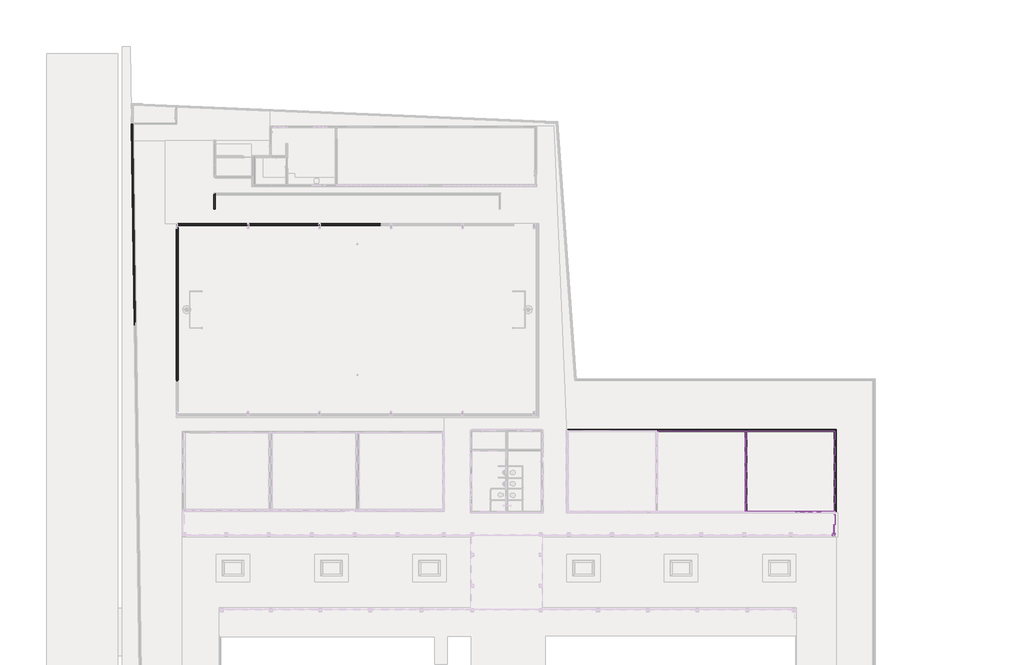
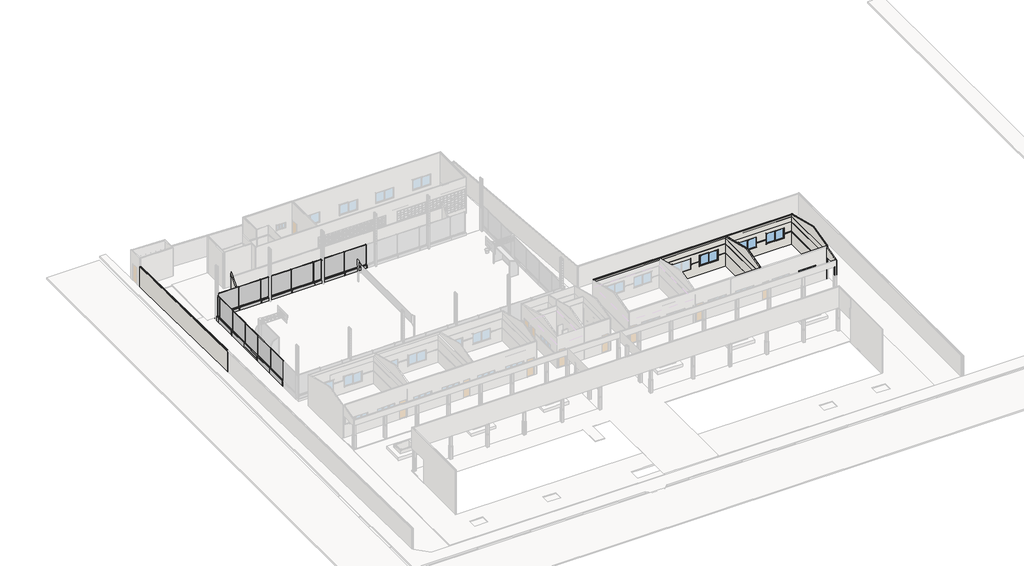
# One storey, part 19 of 28: 36 walls, 14 plates, 4 windows.
"""IFC4 building model written with IfcOpenShell, lengths in millimetres."""

from ifc_helpers import new_model, si_unit, frame, origin, place, context, project, spatial, polyline, outline, extrude, faceted_brep, transform, mapped, element, save
from components import plate_c8864c2c, plate_ba95d4eb, plate_0e4e2798, window_2x1_20x1x10_9e9748dd, window_2x60x220_bcaba8dd

model = new_model("IFC4")

# Units and contexts
model_context = context("Model", 3, world=origin())
ifc_project = project(units=[si_unit("LENGTHUNIT", "METRE", prefix="MILLI")], contexts=[model_context])

# Site, building, storey
site = spatial("IfcSite", under=ifc_project)
building = spatial("IfcBuilding", under=site)
storey = spatial("IfcBuildingStorey", under=building, Name="Térreo", Elevation=0.0)

# Plates
placement = place(None, origin())
plate_shape = plate_c8864c2c(model_context)
element("IfcPlate", 1, ObjectType="FDE_FQ01_FechamentoParaQuadradeEsportes : FQ01_LateraisSapata", at=placement, inside=storey, context=model_context, shape_type="MappedRepresentation", body=[
    mapped(plate_shape, transform((-58665.0, 33318.7010514, -350.0), x_axis=(0.0, 1.0, 0.0), y_axis=(-1.0, 0.0, 0.0), z_axis=(0.0, 0.0, 1.0))),
])
element("IfcPlate", 2, ObjectType="FDE_FQ01_FechamentoParaQuadradeEsportes : FQ01_LateraisSapata", at=placement, inside=storey, context=model_context, shape_type="MappedRepresentation", body=[
    mapped(plate_shape, transform((-58665.0, 35818.7010514, -350.0), x_axis=(0.0, 1.0, 0.0), y_axis=(-1.0, 0.0, 0.0), z_axis=(0.0, 0.0, 1.0))),
])
element("IfcPlate", 3, ObjectType="FDE_FQ01_FechamentoParaQuadradeEsportes : FQ01_LateraisSapata", at=placement, inside=storey, context=model_context, shape_type="MappedRepresentation", body=[
    mapped(plate_shape, transform((-58665.0, 38318.7010514, -350.0), x_axis=(0.0, 1.0, 0.0), y_axis=(-1.0, 0.0, 0.0), z_axis=(0.0, 0.0, 1.0))),
])
element("IfcPlate", 4, ObjectType="FDE_FQ01_FechamentoParaQuadradeEsportes : FQ01_LateraisSapata", at=placement, inside=storey, context=model_context, shape_type="MappedRepresentation", body=[
    mapped(plate_shape, transform((-58665.0, 40818.7010514, -350.0), x_axis=(0.0, 1.0, 0.0), y_axis=(-1.0, 0.0, 0.0), z_axis=(0.0, 0.0, 1.0))),
])
element("IfcPlate", 5, ObjectType="FDE_FQ01_FechamentoParaQuadradeEsportes : FQ01_LateraisSapata", at=placement, inside=storey, context=model_context, shape_type="MappedRepresentation", body=[
    mapped(plate_shape, transform((-58665.0, 43318.7010514, -350.0), x_axis=(0.0, 1.0, 0.0), y_axis=(-1.0, 0.0, 0.0), z_axis=(0.0, 0.0, 1.0))),
])
element("IfcPlate", 6, ObjectType="FDE_FQ01_FechamentoParaQuadradeEsportes : FQ01_LateraisSapata", at=placement, inside=storey, context=model_context, shape_type="MappedRepresentation", body=[
    mapped(plate_shape, transform((-57379.9999998, 45265.0, -350.0), x_axis=(1.0, 0.0, 0.0), y_axis=(0.0, 1.0, 0.0), z_axis=(0.0, 0.0, 1.0))),
])
element("IfcPlate", 7, ObjectType="FDE_FQ01_FechamentoParaQuadradeEsportes : FQ01_LateraisSapata", at=placement, inside=storey, context=model_context, shape_type="MappedRepresentation", body=[
    mapped(plate_shape, transform((-54879.9999997, 45265.0, -350.0), x_axis=(1.0, 0.0, 0.0), y_axis=(0.0, 1.0, 0.0), z_axis=(0.0, 0.0, 1.0))),
])
element("IfcPlate", 8, ObjectType="FDE_FQ01_FechamentoParaQuadradeEsportes : FQ01_LateraisSapata", at=placement, inside=storey, context=model_context, shape_type="MappedRepresentation", body=[
    mapped(plate_shape, transform((-51414.9999998, 45265.0, -350.0), x_axis=(1.0, 0.0, 0.0), y_axis=(0.0, 1.0, 0.0), z_axis=(0.0, 0.0, 1.0))),
])
element("IfcPlate", 9, ObjectType="FDE_FQ01_FechamentoParaQuadradeEsportes : FQ01_LateraisSapata", at=placement, inside=storey, context=model_context, shape_type="MappedRepresentation", body=[
    mapped(plate_shape, transform((-48914.9999997, 45265.0, -350.0), x_axis=(1.0, 0.0, 0.0), y_axis=(0.0, 1.0, 0.0), z_axis=(0.0, 0.0, 1.0))),
])
element("IfcPlate", 10, ObjectType="FDE_FQ01_FechamentoParaQuadradeEsportes : FQ01_LateraisSapata", at=placement, inside=storey, context=model_context, shape_type="MappedRepresentation", body=[
    mapped(plate_shape, transform((-45414.9999998, 45265.0, -350.0), x_axis=(1.0, 0.0, 0.0), y_axis=(0.0, 1.0, 0.0), z_axis=(0.0, 0.0, 1.0))),
])
element("IfcPlate", 11, ObjectType="FDE_FQ01_FechamentoParaQuadradeEsportes : FQ01_LateraisSapata", at=placement, inside=storey, context=model_context, shape_type="MappedRepresentation", body=[
    mapped(plate_shape, transform((-42914.9999997, 45265.0, -350.0), x_axis=(1.0, 0.0, 0.0), y_axis=(0.0, 1.0, 0.0), z_axis=(0.0, 0.0, 1.0))),
])
plate_2_shape = plate_ba95d4eb(model_context)
element("IfcPlate", 12, ObjectType="FDE_FQ01_FechamentoParaQuadradeEsportes : FQ01_LateraisSapata", at=placement, inside=storey, context=model_context, shape_type="MappedRepresentation", body=[
    mapped(plate_2_shape, transform((-58665.0, 44759.3505257, -350.0), x_axis=(0.0, 1.0, 0.0), y_axis=(-1.0, 0.0, 0.0), z_axis=(0.0, 0.0, 1.0))),
])
plate_3_shape = plate_0e4e2798(model_context)
element("IfcPlate", 13, ObjectType="FDE_FQ01_FechamentoParaQuadradeEsportes : FQ01_LateraisSapata", at=placement, inside=storey, context=model_context, shape_type="MappedRepresentation", body=[
    mapped(plate_3_shape, transform((-53189.9999998, 45265.0, -350.0), x_axis=(1.0, 0.0, 0.0), y_axis=(0.0, 1.0, 0.0), z_axis=(0.0, 0.0, 1.0))),
])
element("IfcPlate", 14, ObjectType="FDE_FQ01_FechamentoParaQuadradeEsportes : FQ01_LateraisSapata", at=placement, inside=storey, context=model_context, shape_type="MappedRepresentation", body=[
    mapped(plate_3_shape, transform((-47224.9999998, 45265.0, -350.0), x_axis=(1.0, 0.0, 0.0), y_axis=(0.0, 1.0, 0.0), z_axis=(0.0, 0.0, 1.0))),
])

# Walls
element("IfcWall", 15, ObjectType="FDE_S712_AlvenariadeTijoloCerâmico/Baiano_Alvenaria_9cm - Existente", at=placement, inside=storey, context=model_context, shape_type="Brep", body=[
    faceted_brep([(-18335.0, 27930.0, 0.0), (-10920.0, 27930.0, 0.0), (-10830.0, 27930.0, 0.0), (-10830.0, 27930.0, 3500.0), (-10920.0, 27930.0, 3500.0), (-18335.0, 27930.0, 3500.0), (-16955.0, 27930.0, 1235.0), (-16955.0, 27930.0, 2505.0), (-14885.0, 27930.0, 2505.0), (-14885.0, 27930.0, 1235.0), (-13855.0, 27930.0, 1235.0), (-13855.0, 27930.0, 2505.0), (-11785.0, 27930.0, 2505.0), (-11785.0, 27930.0, 1235.0), (-10830.0, 28020.0, 0.0), (-18335.0, 28020.0, 0.0), (-18335.0, 28020.0, 3500.0), (-10830.0, 28020.0, 3500.0), (-16955.0, 28020.0, 2505.0), (-16955.0, 28020.0, 1235.0), (-14885.0, 28020.0, 1235.0), (-14885.0, 28020.0, 2505.0), (-13855.0, 28020.0, 2505.0), (-13855.0, 28020.0, 1235.0), (-11785.0, 28020.0, 1235.0), (-11785.0, 28020.0, 2505.0)], [[[0, 1, 2, 3, 4, 5], [6, 7, 8, 9], [10, 11, 12, 13]], [[14, 15, 16, 17], [18, 19, 20, 21], [22, 23, 24, 25]], [[2, 1, 0, 15, 14]], [[5, 4, 3, 17, 16]], [[0, 5, 16, 15]], [[2, 14, 17, 3]], [[6, 19, 18, 7]], [[7, 18, 21, 8]], [[8, 21, 20, 9]], [[19, 6, 9, 20]], [[10, 23, 22, 11]], [[11, 22, 25, 12]], [[12, 25, 24, 13]], [[23, 10, 13, 24]]]),
])
element("IfcWall", 16, ObjectType="FDE_S712_AlvenariadeTijoloCerâmico/Baiano_Alvenaria_9cm - Existente", at=placement, inside=storey, context=model_context, shape_type="Brep", body=[
    faceted_brep([(-10920.0, 27930.0, 3500.0), (-10920.0, 27930.0, 0.0), (-10920.0, 21150.0, 0.0), (-10920.0, 21060.0, 0.0), (-10920.0, 21060.0, 3500.0), (-10920.0, 21150.0, 3500.0), (-10830.0, 27930.0, 0.0), (-10830.0, 27930.0, 3500.0), (-10830.0, 21150.0, 3500.0), (-10830.0, 21060.0, 3500.0), (-10830.0, 21060.0, 0.0), (-10830.0, 21150.0, 0.0)], [[[0, 1, 2, 3, 4, 5]], [[6, 7, 8, 9, 10, 11]], [[3, 2, 1, 6, 11, 10]], [[0, 5, 4, 9, 8, 7]], [[0, 7, 6, 1]], [[3, 10, 9, 4]]]),
])
element("IfcWall", 17, ObjectType="FDE_S712_AlvenariadeTijoloCerâmico/Baiano_Alvenaria_9cm - Existente", at=placement, inside=storey, context=model_context, shape_type="Brep", body=[
    faceted_brep([(-10830.0, 27930.0, 0.0), (-3420.0, 27930.0, 0.0), (-3330.0, 27930.0, 0.0), (-3330.0, 27930.0, 3500.0), (-3420.0, 27930.0, 3500.0), (-10830.0, 27930.0, 3500.0), (-9455.0, 27930.0, 1235.0), (-9455.0, 27930.0, 2505.0), (-7385.0, 27930.0, 2505.0), (-7385.0, 27930.0, 1235.0), (-6355.0, 27930.0, 1235.0), (-6355.0, 27930.0, 2505.0), (-4285.0, 27930.0, 2505.0), (-4285.0, 27930.0, 1235.0), (-3330.0, 28020.0, 0.0), (-10830.0, 28020.0, 0.0), (-10830.0, 28020.0, 3500.0), (-3330.0, 28020.0, 3500.0), (-9455.0, 28020.0, 2505.0), (-9455.0, 28020.0, 1235.0), (-7385.0, 28020.0, 1235.0), (-7385.0, 28020.0, 2505.0), (-6355.0, 28020.0, 2505.0), (-6355.0, 28020.0, 1235.0), (-4285.0, 28020.0, 1235.0), (-4285.0, 28020.0, 2505.0)], [[[0, 1, 2, 3, 4, 5], [6, 7, 8, 9], [10, 11, 12, 13]], [[14, 15, 16, 17], [18, 19, 20, 21], [22, 23, 24, 25]], [[2, 1, 0, 15, 14]], [[5, 4, 3, 17, 16]], [[3, 2, 14, 17]], [[5, 16, 15, 0]], [[6, 19, 18, 7]], [[7, 18, 21, 8]], [[8, 21, 20, 9]], [[19, 6, 9, 20]], [[10, 23, 22, 11]], [[11, 22, 25, 12]], [[12, 25, 24, 13]], [[23, 10, 13, 24]]]),
])
element("IfcWall", 18, ObjectType="FDE_S712_AlvenariadeTijoloCerâmico/Baiano_Alvenaria_9cm - Existente", at=placement, inside=storey, context=model_context, shape_type="Brep", body=[
    faceted_brep([(-3420.0, 27930.0, 0.0), (-3420.0, 21150.0, 0.0), (-3420.0, 21060.0, 0.0), (-3420.0, 21060.0, 3500.0), (-3420.0, 21150.0, 3500.0), (-3420.0, 27930.0, 3500.0), (-3330.0, 27930.0, 0.0), (-3330.0, 27930.0, 3500.0), (-3330.0, 21060.0, 3500.0), (-3330.0, 21060.0, 0.0)], [[[0, 1, 2, 3, 4, 5]], [[6, 7, 8, 9]], [[2, 1, 0, 6, 9]], [[5, 4, 3, 8, 7]], [[0, 5, 7, 6]], [[2, 9, 8, 3]]]),
])
element("IfcWall", 19, ObjectType="FDE_S712_AlvenariadeTijoloCerâmico/Baiano_Alvenaria_9cm - Existente", at=placement, inside=storey, context=model_context, shape_type="Brep", body=[
    faceted_brep([(-3420.0, 21150.0, 0.0), (-10830.0, 21150.0, 0.0), (-10830.0, 21150.0, 3500.0), (-3420.0, 21150.0, 3500.0), (-10754.0, 21150.0, 2312.0), (-10754.0, 21150.0, 200.0), (-9920.0, 21150.0, 200.0), (-9920.0, 21150.0, 2312.0), (-4585.0, 21150.0, 1665.0), (-4585.0, 21150.0, 2335.0), (-6655.0, 21150.0, 2335.0), (-6655.0, 21150.0, 1665.0), (-7585.0, 21150.0, 1665.0), (-7585.0, 21150.0, 2335.0), (-9655.0, 21150.0, 2335.0), (-9655.0, 21150.0, 1665.0), (-10830.0, 21060.0, 0.0), (-3420.0, 21060.0, 0.0), (-3420.0, 21060.0, 3500.0), (-10830.0, 21060.0, 3500.0), (-10754.0, 21060.0, 200.0), (-10754.0, 21060.0, 1700.0), (-10754.0, 21060.0, 1731.0528047), (-10754.0, 21060.0, 1824.9435125), (-10754.0, 21060.0, 2312.0), (-9920.0, 21060.0, 2312.0), (-9920.0, 21060.0, 1824.9435125), (-9920.0, 21060.0, 1731.0528047), (-9920.0, 21060.0, 1700.0), (-9920.0, 21060.0, 200.0), (-4585.0, 21060.0, 2335.0), (-4585.0, 21060.0, 1824.9435125), (-4585.0, 21060.0, 1731.0528047), (-4585.0, 21060.0, 1700.0), (-4585.0, 21060.0, 1665.0), (-6655.0, 21060.0, 1665.0), (-6655.0, 21060.0, 1700.0), (-6655.0, 21060.0, 1731.0528047), (-6655.0, 21060.0, 1824.9435125), (-6655.0, 21060.0, 2335.0), (-7585.0, 21060.0, 2335.0), (-7585.0, 21060.0, 1824.9435125), (-7585.0, 21060.0, 1731.0528047), (-7585.0, 21060.0, 1700.0), (-7585.0, 21060.0, 1665.0), (-9655.0, 21060.0, 1665.0), (-9655.0, 21060.0, 1700.0), (-9655.0, 21060.0, 1731.0528047), (-9655.0, 21060.0, 1824.9435125), (-9655.0, 21060.0, 2335.0)], [[[0, 1, 2, 3], [4, 5, 6, 7], [8, 9, 10, 11], [12, 13, 14, 15]], [[16, 17, 18, 19], [20, 21, 22, 23, 24, 25, 26, 27, 28, 29], [30, 31, 32, 33, 34, 35, 36, 37, 38, 39], [40, 41, 42, 43, 44, 45, 46, 47, 48, 49]], [[1, 0, 17, 16]], [[3, 2, 19, 18]], [[3, 18, 17, 0]], [[20, 5, 4, 24, 23, 22, 21]], [[24, 4, 7, 25]], [[25, 7, 6, 29, 28, 27, 26]], [[5, 20, 29, 6]], [[8, 34, 33, 32, 31, 30, 9]], [[9, 30, 39, 10]], [[10, 39, 38, 37, 36, 35, 11]], [[34, 8, 11, 35]], [[12, 44, 43, 42, 41, 40, 13]], [[13, 40, 49, 14]], [[14, 49, 48, 47, 46, 45, 15]], [[44, 12, 15, 45]], [[1, 16, 19, 2]]]),
])
element("IfcWall", 20, ObjectType="FDE_S712_AlvenariadeTijoloCerâmico/Baiano_Alvenaria_9cm - Existente", at=placement, inside=storey, context=model_context, shape_type="Brep", body=[
    faceted_brep([(-3420.0, 27930.0, 0.0), (-3420.0, 21150.0, 0.0), (-3420.0, 21150.0, 1730.1789081), (-3420.0, 21150.0, 4093.692274), (-3420.0, 23811.6315073, 4759.1001508), (-3420.0, 27930.0, 3729.5080277), (-3420.0, 27930.0, 1730.1789081), (-3330.0, 27930.0, 0.0), (-3330.0, 27930.0, 3729.5080277), (-3330.0, 23811.6315073, 4759.1001508), (-3330.0, 21150.0, 4093.692274), (-3330.0, 21150.0, 0.0)], [[[0, 1, 2, 3, 4, 5, 6]], [[7, 8, 9, 10, 11]], [[1, 0, 7, 11]], [[0, 6, 5, 8, 7]], [[5, 4, 9, 8]], [[4, 3, 10, 9]], [[1, 11, 10, 3, 2]]]),
])
element("IfcWall", 21, ObjectType="FDE_S712_AlvenariadeTijoloCerâmico/Baiano_Alvenaria_9cm - Existente", at=placement, inside=storey, context=model_context, shape_type="Brep", body=[
    faceted_brep([(-25830.0, 27930.0, 0.0), (-25800.0, 27930.0, 0.0), (-18460.0, 27930.0, 0.0), (-18430.0, 27930.0, 0.0), (-18305.0, 27930.0, 0.0), (-10950.0, 27930.0, 0.0), (-10920.0, 27930.0, 0.0), (-3450.0, 27930.0, 0.0), (-3420.0, 27930.0, 0.0), (-3420.0, 27930.0, 1730.1789081), (-3420.0, 27930.0, 3729.5080277), (-25830.0, 27930.0, 3729.5080277), (-9455.0, 27930.0, 1235.0), (-9455.0, 27930.0, 1824.9435125), (-9455.0, 27930.0, 2505.0), (-7385.0, 27930.0, 2505.0), (-7385.0, 27930.0, 1824.9435125), (-7385.0, 27930.0, 1235.0), (-6355.0, 27930.0, 1235.0), (-6355.0, 27930.0, 1824.9435125), (-6355.0, 27930.0, 2505.0), (-4285.0, 27930.0, 2505.0), (-4285.0, 27930.0, 1824.9435125), (-4285.0, 27930.0, 1235.0), (-24465.0, 27930.0, 1235.0), (-24465.0, 27930.0, 1730.538599), (-24465.0, 27930.0, 2505.0), (-22395.0, 27930.0, 2505.0), (-22395.0, 27930.0, 1730.538599), (-22395.0, 27930.0, 1235.0), (-21365.0, 27930.0, 1235.0), (-21365.0, 27930.0, 1730.538599), (-21365.0, 27930.0, 2505.0), (-19295.0, 27930.0, 2505.0), (-19295.0, 27930.0, 1730.538599), (-19295.0, 27930.0, 1235.0), (-16955.0, 27930.0, 1235.0), (-16955.0, 27930.0, 1730.1789081), (-16955.0, 27930.0, 1731.0528047), (-16955.0, 27930.0, 1824.9435125), (-16955.0, 27930.0, 2505.0), (-14885.0, 27930.0, 2505.0), (-14885.0, 27930.0, 1824.9435125), (-14885.0, 27930.0, 1731.0528047), (-14885.0, 27930.0, 1730.1789081), (-14885.0, 27930.0, 1235.0), (-13855.0, 27930.0, 1235.0), (-13855.0, 27930.0, 1730.1789081), (-13855.0, 27930.0, 1731.0528047), (-13855.0, 27930.0, 1824.9435125), (-13855.0, 27930.0, 2505.0), (-11785.0, 27930.0, 2505.0), (-11785.0, 27930.0, 1824.9435125), (-11785.0, 27930.0, 1731.0528047), (-11785.0, 27930.0, 1730.1789081), (-11785.0, 27930.0, 1235.0), (-3420.0, 28020.0, 0.0), (-25830.0, 28020.0, 0.0), (-25830.0, 28020.0, 3707.0080277), (-3420.0, 28020.0, 3707.0080277), (-6355.0, 28020.0, 2505.0), (-6355.0, 28020.0, 1235.0), (-4285.0, 28020.0, 1235.0), (-4285.0, 28020.0, 2505.0), (-9455.0, 28020.0, 2505.0), (-9455.0, 28020.0, 1235.0), (-7385.0, 28020.0, 1235.0), (-7385.0, 28020.0, 2505.0), (-24465.0, 28020.0, 2505.0), (-24465.0, 28020.0, 1235.0), (-22395.0, 28020.0, 1235.0), (-22395.0, 28020.0, 2505.0), (-21365.0, 28020.0, 2505.0), (-21365.0, 28020.0, 1235.0), (-19295.0, 28020.0, 1235.0), (-19295.0, 28020.0, 2505.0), (-16955.0, 28020.0, 2505.0), (-16955.0, 28020.0, 1235.0), (-14885.0, 28020.0, 1235.0), (-14885.0, 28020.0, 2505.0), (-13855.0, 28020.0, 2505.0), (-13855.0, 28020.0, 1235.0), (-11785.0, 28020.0, 1235.0), (-11785.0, 28020.0, 2505.0)], [[[0, 1, 2, 3, 4, 5, 6, 7, 8, 9, 10, 11], [12, 13, 14, 15, 16, 17], [18, 19, 20, 21, 22, 23], [24, 25, 26, 27, 28, 29], [30, 31, 32, 33, 34, 35], [36, 37, 38, 39, 40, 41, 42, 43, 44, 45], [46, 47, 48, 49, 50, 51, 52, 53, 54, 55]], [[56, 57, 58, 59], [60, 61, 62, 63], [64, 65, 66, 67], [68, 69, 70, 71], [72, 73, 74, 75], [76, 77, 78, 79], [80, 81, 82, 83]], [[8, 7, 6, 5, 4, 3, 2, 1, 0, 57, 56]], [[10, 9, 8, 56, 59]], [[20, 19, 18, 61, 60]], [[21, 20, 60, 63]], [[23, 22, 21, 63, 62]], [[18, 23, 62, 61]], [[14, 13, 12, 65, 64]], [[15, 14, 64, 67]], [[17, 16, 15, 67, 66]], [[12, 17, 66, 65]], [[11, 10, 59, 58]], [[57, 0, 11, 58]], [[26, 25, 24, 69, 68]], [[27, 26, 68, 71]], [[29, 28, 27, 71, 70]], [[24, 29, 70, 69]], [[32, 31, 30, 73, 72]], [[33, 32, 72, 75]], [[35, 34, 33, 75, 74]], [[30, 35, 74, 73]], [[36, 77, 76, 40, 39, 38, 37]], [[40, 76, 79, 41]], [[41, 79, 78, 45, 44, 43, 42]], [[77, 36, 45, 78]], [[46, 81, 80, 50, 49, 48, 47]], [[50, 80, 83, 51]], [[51, 83, 82, 55, 54, 53, 52]], [[81, 46, 55, 82]]]),
])
element("IfcWall", 22, ObjectType="FDE_S712_AlvenariadeTijoloCerâmico/Baiano_Alvenaria_9cm - Existente", at=placement, inside=storey, context=model_context, shape_type="Brep", body=[
    faceted_brep([(-10830.0, 21150.0, 4093.692274), (-10830.0, 21150.0, 0.0), (-10830.0, 27930.0, 0.0), (-10830.0, 27930.0, 3729.5080277), (-10830.0, 23811.6315073, 4759.1001508), (-10920.0, 21150.0, 0.0), (-10920.0, 21150.0, 4093.692274), (-10920.0, 23811.6315073, 4759.1001508), (-10920.0, 27930.0, 3729.5080277), (-10920.0, 27930.0, 2900.0), (-10920.0, 27930.0, 1824.9435125), (-10920.0, 27930.0, 1731.0528047), (-10920.0, 27930.0, 0.0)], [[[0, 1, 2, 3, 4]], [[5, 6, 7, 8, 9, 10, 11, 12]], [[2, 1, 5, 12]], [[0, 4, 7, 6]], [[4, 3, 8, 7]], [[2, 12, 11, 10, 9, 8, 3]], [[0, 6, 5, 1]]]),
])
element("IfcWall", 23, ObjectType="Pintura Externa - Tinta Acrílica Verbrás  Verde Água", at=placement, inside=storey, context=model_context, shape_type="Brep", body=[
    faceted_brep([(-3379.0, 19109.0, 2900.0), (-3379.0, 20924.0, 2900.0), (-3379.0, 20924.0, 4037.192274), (-3379.0, 19109.0, 3583.442274), (-3409.0, 19109.0, 2900.0), (-3409.0, 19109.0, 3583.442274), (-3409.0, 19139.0, 3590.942274), (-3409.0, 19229.0, 3613.442274), (-3409.0, 20924.0, 4037.192274), (-3409.0, 20924.0, 2900.0), (-3409.0, 19229.0, 2900.0), (-3409.0, 19139.0, 2900.0), (-3400.0, 19109.0, 2900.0)], [[[0, 1, 2, 3]], [[4, 5, 6, 7, 8, 9, 10, 11]], [[1, 0, 12, 4, 11, 10, 9]], [[2, 1, 9, 8]], [[3, 2, 8, 7, 6, 5]], [[0, 3, 5, 4, 12]]]),
])
element("IfcWall", 24, ObjectType="Pintura Externa - Tinta Acrílica Verbrás  Verde Água", at=placement, inside=storey, context=model_context, shape_type="Brep", body=[
    faceted_brep([(-3270.0, 28050.0, 0.0), (-25830.0, 28050.0, 0.0), (-25830.0, 28050.0, 3740.8166911), (-3270.0, 28050.0, 3740.8166911), (-6355.0, 28050.0, 2505.0), (-6355.0, 28050.0, 1235.0), (-4285.0, 28050.0, 1235.0), (-4285.0, 28050.0, 2505.0), (-9455.0, 28050.0, 2505.0), (-9455.0, 28050.0, 1235.0), (-7385.0, 28050.0, 1235.0), (-7385.0, 28050.0, 2505.0), (-21365.0, 28050.0, 2505.0), (-21365.0, 28050.0, 1235.0), (-19295.0, 28050.0, 1235.0), (-19295.0, 28050.0, 2505.0), (-24465.0, 28050.0, 2505.0), (-24465.0, 28050.0, 1235.0), (-22395.0, 28050.0, 1235.0), (-22395.0, 28050.0, 2505.0), (-16955.0, 28050.0, 2505.0), (-16955.0, 28050.0, 1235.0), (-14885.0, 28050.0, 1235.0), (-14885.0, 28050.0, 2505.0), (-13855.0, 28050.0, 2505.0), (-13855.0, 28050.0, 1235.0), (-11785.0, 28050.0, 1235.0), (-11785.0, 28050.0, 2505.0), (-25830.0, 28020.0, 0.0), (-18425.0, 28020.0, 0.0), (-18335.0, 28020.0, 0.0), (-10830.0, 28020.0, 0.0), (-3420.0, 28020.0, 0.0), (-3330.0, 28020.0, 0.0), (-3300.0, 28020.0, 0.0), (-3270.0, 28020.0, 0.0), (-3270.0, 28020.0, 3740.8166911), (-25830.0, 28020.0, 3740.8166911), (-25830.0, 28020.0, 3707.0080277), (-25830.0, 28020.0, 3500.0), (-6355.0, 28020.0, 1235.0), (-6355.0, 28020.0, 2505.0), (-4285.0, 28020.0, 2505.0), (-4285.0, 28020.0, 1235.0), (-9455.0, 28020.0, 1235.0), (-9455.0, 28020.0, 2505.0), (-7385.0, 28020.0, 2505.0), (-7385.0, 28020.0, 1235.0), (-21365.0, 28020.0, 1235.0), (-21365.0, 28020.0, 2505.0), (-19295.0, 28020.0, 2505.0), (-19295.0, 28020.0, 1235.0), (-24465.0, 28020.0, 1235.0), (-24465.0, 28020.0, 2505.0), (-22395.0, 28020.0, 2505.0), (-22395.0, 28020.0, 1235.0), (-16955.0, 28020.0, 1235.0), (-16955.0, 28020.0, 2505.0), (-14885.0, 28020.0, 2505.0), (-14885.0, 28020.0, 1235.0), (-13855.0, 28020.0, 1235.0), (-13855.0, 28020.0, 2505.0), (-11785.0, 28020.0, 2505.0), (-11785.0, 28020.0, 1235.0)], [[[0, 1, 2, 3], [4, 5, 6, 7], [8, 9, 10, 11], [12, 13, 14, 15], [16, 17, 18, 19], [20, 21, 22, 23], [24, 25, 26, 27]], [[28, 29, 30, 31, 32, 33, 34, 35, 36, 37, 38, 39], [40, 41, 42, 43], [44, 45, 46, 47], [48, 49, 50, 51], [52, 53, 54, 55], [56, 57, 58, 59], [60, 61, 62, 63]], [[1, 0, 35, 34, 33, 32, 31, 30, 29, 28]], [[2, 1, 28, 39, 38, 37]], [[3, 2, 37, 36]], [[0, 3, 36, 35]], [[41, 40, 5, 4]], [[42, 41, 4, 7]], [[43, 42, 7, 6]], [[40, 43, 6, 5]], [[45, 44, 9, 8]], [[46, 45, 8, 11]], [[47, 46, 11, 10]], [[44, 47, 10, 9]], [[49, 48, 13, 12]], [[50, 49, 12, 15]], [[51, 50, 15, 14]], [[48, 51, 14, 13]], [[53, 52, 17, 16]], [[54, 53, 16, 19]], [[55, 54, 19, 18]], [[52, 55, 18, 17]], [[56, 21, 20, 57]], [[57, 20, 23, 58]], [[58, 23, 22, 59]], [[21, 56, 59, 22]], [[60, 25, 24, 61]], [[61, 24, 27, 62]], [[62, 27, 26, 63]], [[25, 60, 63, 26]]]),
])
element("IfcWall", 25, ObjectType="Revestimento Cerâmico 10x10cm", at=placement, inside=storey, context=model_context, shape_type="Brep", body=[
    faceted_brep([(-3450.0, 27930.0, 0.0), (-3450.0, 27900.0, 0.0), (-3450.0, 21180.0, 0.0), (-3450.0, 21150.0, 0.0), (-3450.0, 21150.0, 1730.1789081), (-3450.0, 21180.0, 1730.1789081), (-3450.0, 27900.0, 1730.1789081), (-3450.0, 27930.0, 1730.1789081), (-3420.0, 27930.0, 0.0), (-3420.0, 27930.0, 1730.1789081), (-3420.0, 21150.0, 1730.1789081), (-3420.0, 21150.0, 1600.0), (-3420.0, 21150.0, 0.0)], [[[0, 1, 2, 3, 4, 5, 6, 7]], [[8, 9, 10, 11, 12]], [[3, 2, 1, 0, 8, 12]], [[7, 6, 5, 4, 10, 9]], [[3, 12, 11, 10, 4]], [[0, 7, 9, 8]]]),
])
element("IfcWall", 26, ObjectType="Revestimento Cerâmico 10x10cm", at=placement, inside=storey, context=model_context, shape_type="Brep", body=[
    faceted_brep([(-3450.0, 21180.0, 0.0), (-10800.0, 21180.0, 0.0), (-10830.0, 21180.0, 0.0), (-10830.0, 21180.0, 1730.1789081), (-10800.0, 21180.0, 1730.1789081), (-10754.0, 21180.0, 1730.1789081), (-10754.0, 21180.0, 200.0), (-9920.0, 21180.0, 200.0), (-9920.0, 21180.0, 1730.1789081), (-9655.0, 21180.0, 1730.1789081), (-9655.0, 21180.0, 1665.0), (-7585.0, 21180.0, 1665.0), (-7585.0, 21180.0, 1730.1789081), (-6655.0, 21180.0, 1730.1789081), (-6655.0, 21180.0, 1665.0), (-4585.0, 21180.0, 1665.0), (-4585.0, 21180.0, 1730.1789081), (-3450.0, 21180.0, 1730.1789081), (-10830.0, 21150.0, 0.0), (-3450.0, 21150.0, 0.0), (-3450.0, 21150.0, 1730.1789081), (-4585.0, 21150.0, 1730.1789081), (-4585.0, 21150.0, 1665.0), (-6655.0, 21150.0, 1665.0), (-6655.0, 21150.0, 1730.1789081), (-7585.0, 21150.0, 1730.1789081), (-7585.0, 21150.0, 1665.0), (-9655.0, 21150.0, 1665.0), (-9655.0, 21150.0, 1730.1789081), (-9920.0, 21150.0, 1730.1789081), (-9920.0, 21150.0, 1600.0), (-9920.0, 21150.0, 200.0), (-10754.0, 21150.0, 200.0), (-10754.0, 21150.0, 1600.0), (-10754.0, 21150.0, 1730.1789081), (-10830.0, 21150.0, 1730.1789081)], [[[0, 1, 2, 3, 4, 5, 6, 7, 8, 9, 10, 11, 12, 13, 14, 15, 16, 17]], [[18, 19, 20, 21, 22, 23, 24, 25, 26, 27, 28, 29, 30, 31, 32, 33, 34, 35]], [[2, 1, 0, 19, 18]], [[20, 17, 16, 21]], [[3, 35, 34, 5, 4]], [[8, 29, 28, 9]], [[12, 25, 24, 13]], [[0, 17, 20, 19]], [[3, 2, 18, 35]], [[32, 6, 5, 34, 33]], [[7, 31, 30, 29, 8]], [[6, 32, 31, 7]], [[11, 26, 25, 12]], [[27, 10, 9, 28]], [[26, 11, 10, 27]], [[15, 22, 21, 16]], [[23, 14, 13, 24]], [[22, 15, 14, 23]]]),
])
element("IfcWall", 27, ObjectType="Revestimento Cerâmico 10x10cm", at=placement, inside=storey, context=model_context, shape_type="Brep", body=[
    faceted_brep([(-10800.0, 21180.0, 0.0), (-10800.0, 27900.0, 0.0), (-10800.0, 27930.0, 0.0), (-10800.0, 27930.0, 1730.1789081), (-10800.0, 27900.0, 1730.1789081), (-10800.0, 21180.0, 1730.1789081), (-10830.0, 21180.0, 0.0), (-10830.0, 21180.0, 1730.1789081), (-10830.0, 27930.0, 1730.1789081), (-10830.0, 27930.0, 0.0)], [[[0, 1, 2, 3, 4, 5]], [[6, 7, 8, 9]], [[2, 1, 0, 6, 9]], [[5, 4, 3, 8, 7]], [[0, 5, 7, 6]], [[3, 2, 9, 8]]]),
])
element("IfcWall", 28, ObjectType="Revestimento Cerâmico 10x10cm", at=placement, inside=storey, context=model_context, shape_type="SweptSolid", body=[
    extrude(outline(polyline([(0.0, -10800.0), (0.0, -3450.0), (1730.1789081, -3450.0), (1730.1789081, -4285.0), (1235.0, -4285.0), (1235.0, -6355.0), (1730.1789081, -6355.0), (1730.1789081, -7385.0), (1235.0, -7385.0), (1235.0, -9455.0), (1730.1789081, -9455.0), (1730.1789081, -10800.0), (0.0, -10800.0)])), frame((0.0, 27900.0, 0.0), z_axis=(0.0, 1.0, 0.0), x_axis=(0.0, 0.0, 1.0)), (0.0, 0.0, 1.0), 30.0),
])
element("IfcWall", 29, ObjectType="Revestimento Cerâmico 10x10cm", at=placement, inside=storey, context=model_context, shape_type="Brep", body=[
    faceted_brep([(-10950.0, 27930.0, 0.0), (-10950.0, 27900.0, 0.0), (-10950.0, 21180.0, 0.0), (-10950.0, 21150.0, 0.0), (-10950.0, 21150.0, 1730.1789081), (-10950.0, 21180.0, 1730.1789081), (-10950.0, 27900.0, 1730.1789081), (-10950.0, 27930.0, 1730.1789081), (-10920.0, 27930.0, 0.0), (-10920.0, 27930.0, 1730.1789081), (-10920.0, 21150.0, 1730.1789081), (-10920.0, 21150.0, 0.0)], [[[0, 1, 2, 3, 4, 5, 6, 7]], [[8, 9, 10, 11]], [[3, 2, 1, 0, 8, 11]], [[7, 6, 5, 4, 10, 9]], [[0, 7, 9, 8]], [[3, 11, 10, 4]]]),
])
element("IfcWall", 30, ObjectType="Revestimento Cerâmico 10x10cm", at=placement, inside=storey, context=model_context, shape_type="SweptSolid", body=[
    extrude(outline(polyline([(0.0, -18305.0), (0.0, -10950.0), (1730.1789081, -10950.0), (1730.1789081, -11785.0), (1235.0, -11785.0), (1235.0, -13855.0), (1730.1789081, -13855.0), (1730.1789081, -14885.0), (1235.0, -14885.0), (1235.0, -16955.0), (1730.1789081, -16955.0), (1730.1789081, -18305.0), (0.0, -18305.0)])), frame((0.0, 27900.0, 0.0), z_axis=(0.0, 1.0, 0.0), x_axis=(0.0, 0.0, 1.0)), (0.0, 0.0, 1.0), 30.0),
])
element("IfcWall", 31, ObjectType="Pardes Internas_Pintura Acrílica Branco Neve 2", at=placement, inside=storey, context=model_context, shape_type="Brep", body=[
    faceted_brep([(-10830.0, 21211.0, 2900.8), (-3420.0, 21211.0, 2900.8), (-3420.0, 21211.0, 2900.0), (-3420.0, 21211.0, 1824.9435125), (-3451.0, 21211.0, 1824.9435125), (-4585.0, 21211.0, 1824.9435125), (-4585.0, 21211.0, 2335.0), (-6655.0, 21211.0, 2335.0), (-6655.0, 21211.0, 1824.9435125), (-7585.0, 21211.0, 1824.9435125), (-7585.0, 21211.0, 2335.0), (-9655.0, 21211.0, 2335.0), (-9655.0, 21211.0, 1824.9435125), (-9920.0, 21211.0, 1824.9435125), (-9920.0, 21211.0, 2312.0), (-10754.0, 21211.0, 2312.0), (-10754.0, 21211.0, 1824.9435125), (-10799.0, 21211.0, 1824.9435125), (-10830.0, 21211.0, 1824.9435125), (-3420.0, 21180.0, 2900.8), (-10830.0, 21180.0, 2900.8), (-10830.0, 21180.0, 1824.9435125), (-10754.0, 21180.0, 1824.9435125), (-10754.0, 21180.0, 2312.0), (-9920.0, 21180.0, 2312.0), (-9920.0, 21180.0, 1824.9435125), (-9655.0, 21180.0, 1824.9435125), (-9655.0, 21180.0, 2335.0), (-7585.0, 21180.0, 2335.0), (-7585.0, 21180.0, 1824.9435125), (-6655.0, 21180.0, 1824.9435125), (-6655.0, 21180.0, 2335.0), (-4585.0, 21180.0, 2335.0), (-4585.0, 21180.0, 1824.9435125), (-3420.0, 21180.0, 1824.9435125)], [[[0, 1, 2, 3, 4, 5, 6, 7, 8, 9, 10, 11, 12, 13, 14, 15, 16, 17, 18]], [[19, 20, 21, 22, 23, 24, 25, 26, 27, 28, 29, 30, 31, 32, 33, 34]], [[21, 18, 17, 16, 22]], [[25, 13, 12, 26]], [[29, 9, 8, 30]], [[3, 34, 33, 5, 4]], [[1, 0, 20, 19]], [[15, 23, 22, 16]], [[23, 15, 14, 24]], [[24, 14, 13, 25]], [[18, 21, 20, 0]], [[32, 6, 5, 33]], [[6, 32, 31, 7]], [[7, 31, 30, 8]], [[28, 10, 9, 29]], [[10, 28, 27, 11]], [[11, 27, 26, 12]], [[3, 2, 1, 19, 34]]]),
])
element("IfcWall", 32, ObjectType="Faixa - Revestimento Cerâmico Verde Folha 10x10cm", at=placement, inside=storey, context=model_context, shape_type="Brep", body=[
    faceted_brep([(-10800.0, 21180.0, 1731.0528047), (-10800.0, 27900.0, 1731.0528047), (-10800.0, 27930.0, 1731.0528047), (-10800.0, 27930.0, 1824.9435125), (-10800.0, 27900.0, 1824.9435125), (-10800.0, 21180.0, 1824.9435125), (-10830.0, 21180.0, 1731.0528047), (-10830.0, 21180.0, 1824.9435125), (-10830.0, 27930.0, 1824.9435125), (-10830.0, 27930.0, 1731.0528047)], [[[0, 1, 2, 3, 4, 5]], [[6, 7, 8, 9]], [[2, 1, 0, 6, 9]], [[5, 4, 3, 8, 7]], [[3, 2, 9, 8]], [[0, 5, 7, 6]]]),
])
element("IfcWall", 33, ObjectType="Pardes Internas_Pintura Acrílica Branco Neve 2", at=placement, inside=storey, context=model_context, shape_type="Brep", body=[
    faceted_brep([(-10799.0, 21211.0, 1824.9435125), (-10799.0, 27899.0, 1824.9435125), (-10799.0, 27930.0, 1824.9435125), (-10799.0, 27930.0, 2900.0), (-10799.0, 27930.0, 3729.5080277), (-10799.0, 23811.6315073, 4759.1001508), (-10799.0, 21211.0, 4108.942274), (-10830.0, 21211.0, 1824.9435125), (-10830.0, 21211.0, 2900.8), (-10830.0, 21211.0, 4108.942274), (-10830.0, 23811.6315073, 4759.1001508), (-10830.0, 27930.0, 3729.5080277), (-10830.0, 27930.0, 1824.9435125), (-10800.0, 27930.0, 1824.9435125)], [[[0, 1, 2, 3, 4, 5, 6]], [[7, 8, 9, 10, 11, 12]], [[2, 1, 0, 7, 12, 13]], [[6, 5, 10, 9]], [[5, 4, 11, 10]], [[0, 6, 9, 8, 7]], [[4, 3, 2, 13, 12, 11]]]),
])
element("IfcWall", 34, ObjectType="Faixa - Revestimento Cerâmico Verde Folha 10x10cm", at=placement, inside=storey, context=model_context, shape_type="Brep", body=[
    faceted_brep([(-3420.0, 21150.0, 1731.0528047), (-3420.0, 27900.0, 1731.0528047), (-3420.0, 27900.0, 1824.9435125), (-3420.0, 21150.0, 1824.9435125), (-3450.0, 21150.0, 1731.0528047), (-3450.0, 21150.0, 1824.9435125), (-3450.0, 21180.0, 1824.9435125), (-3450.0, 27900.0, 1824.9435125), (-3450.0, 27900.0, 1731.0528047), (-3450.0, 21180.0, 1731.0528047)], [[[0, 1, 2, 3]], [[4, 5, 6, 7, 8, 9]], [[1, 0, 4, 9, 8]], [[3, 2, 7, 6, 5]], [[2, 1, 8, 7]], [[0, 3, 5, 4]]]),
])
element("IfcWall", 35, ObjectType="Pardes Internas_Pintura Acrílica Branco Neve 2", at=placement, inside=storey, context=model_context, shape_type="Brep", body=[
    faceted_brep([(-3451.0, 27930.0, 1824.9435125), (-3451.0, 27899.0, 1824.9435125), (-3451.0, 21211.0, 1824.9435125), (-3451.0, 21211.0, 2900.0), (-3451.0, 27899.0, 2900.0), (-3451.0, 27930.0, 2900.0), (-3420.0, 27930.0, 1824.9435125), (-3420.0, 27930.0, 2900.0), (-3420.0, 21211.0, 2900.0), (-3420.0, 21211.0, 1824.9435125), (-3420.0, 27900.0, 1824.9435125)], [[[0, 1, 2, 3, 4, 5]], [[6, 7, 8, 9, 10]], [[2, 1, 0, 6, 10, 9]], [[5, 4, 3, 8, 7]], [[0, 5, 7, 6]], [[3, 2, 9, 8]]]),
])
element("IfcWall", 36, ObjectType="Pardes Internas_Pintura Acrílica Branco Neve 2", at=placement, inside=storey, context=model_context, shape_type="Brep", body=[
    faceted_brep([(-10920.0, 21150.0, 1824.9435125), (-10920.0, 27900.0, 1824.9435125), (-10920.0, 27930.0, 1824.9435125), (-10920.0, 27930.0, 2900.0), (-10920.0, 21150.0, 2900.0), (-10951.0, 21150.0, 1824.9435125), (-10951.0, 21150.0, 2900.0), (-10951.0, 27930.0, 2900.0), (-10951.0, 27930.0, 1824.9435125), (-10950.0, 27930.0, 1824.9435125)], [[[0, 1, 2, 3, 4]], [[5, 6, 7, 8]], [[2, 1, 0, 5, 8, 9]], [[4, 3, 7, 6]], [[3, 2, 9, 8, 7]], [[0, 4, 6, 5]]]),
])
element("IfcWall", 37, ObjectType="Pardes Internas_Pintura Acrílica Branco Neve 2", at=placement, inside=storey, context=model_context, shape_type="Brep", body=[
    faceted_brep([(-10920.0, 27899.0, 2900.0), (-18304.0, 27899.0, 2900.0), (-18304.0, 27899.0, 1824.9435125), (-16955.0, 27899.0, 1824.9435125), (-16955.0, 27899.0, 2505.0), (-14885.0, 27899.0, 2505.0), (-14885.0, 27899.0, 1824.9435125), (-13855.0, 27899.0, 1824.9435125), (-13855.0, 27899.0, 2505.0), (-11785.0, 27899.0, 2505.0), (-11785.0, 27899.0, 1824.9435125), (-10920.0, 27899.0, 1824.9435125), (-18304.0, 27930.0, 2900.0), (-10920.0, 27930.0, 2900.0), (-10920.0, 27930.0, 1824.9435125), (-10950.0, 27930.0, 1824.9435125), (-11785.0, 27930.0, 1824.9435125), (-11785.0, 27930.0, 2505.0), (-13855.0, 27930.0, 2505.0), (-13855.0, 27930.0, 1824.9435125), (-14885.0, 27930.0, 1824.9435125), (-14885.0, 27930.0, 2505.0), (-16955.0, 27930.0, 2505.0), (-16955.0, 27930.0, 1824.9435125), (-18304.0, 27930.0, 1824.9435125), (-10920.0, 27900.0, 1824.9435125)], [[[0, 1, 2, 3, 4, 5, 6, 7, 8, 9, 10, 11]], [[12, 13, 14, 15, 16, 17, 18, 19, 20, 21, 22, 23, 24]], [[2, 24, 23, 3]], [[14, 25, 11, 10, 16, 15]], [[19, 7, 6, 20]], [[1, 0, 13, 12]], [[2, 1, 12, 24]], [[11, 25, 14, 13, 0]], [[18, 8, 7, 19]], [[8, 18, 17, 9]], [[9, 17, 16, 10]], [[22, 4, 3, 23]], [[4, 22, 21, 5]], [[5, 21, 20, 6]]]),
])
element("IfcWall", 38, ObjectType="Pardes Internas_Pintura Acrílica Branco Neve 2", at=placement, inside=storey, context=model_context, shape_type="Brep", body=[
    faceted_brep([(-3451.0, 27899.0, 2900.0), (-10799.0, 27899.0, 2900.0), (-10799.0, 27899.0, 1824.9435125), (-9455.0, 27899.0, 1824.9435125), (-9455.0, 27899.0, 2505.0), (-7385.0, 27899.0, 2505.0), (-7385.0, 27899.0, 1824.9435125), (-6355.0, 27899.0, 1824.9435125), (-6355.0, 27899.0, 2505.0), (-4285.0, 27899.0, 2505.0), (-4285.0, 27899.0, 1824.9435125), (-3451.0, 27899.0, 1824.9435125), (-10799.0, 27930.0, 2900.0), (-3451.0, 27930.0, 2900.0), (-3451.0, 27930.0, 1824.9435125), (-4285.0, 27930.0, 1824.9435125), (-4285.0, 27930.0, 2505.0), (-6355.0, 27930.0, 2505.0), (-6355.0, 27930.0, 1824.9435125), (-7385.0, 27930.0, 1824.9435125), (-7385.0, 27930.0, 1832.5106201), (-7385.0, 27930.0, 2505.0), (-9455.0, 27930.0, 2505.0), (-9455.0, 27930.0, 1832.5106201), (-9455.0, 27930.0, 1824.9435125), (-10799.0, 27930.0, 1824.9435125), (-9455.0, 27900.0, 1824.9435125), (-7385.0, 27900.0, 1824.9435125)], [[[0, 1, 2, 3, 4, 5, 6, 7, 8, 9, 10, 11]], [[12, 13, 14, 15, 16, 17, 18, 19, 20, 21, 22, 23, 24, 25]], [[2, 25, 24, 26, 3]], [[14, 11, 10, 15]], [[18, 7, 6, 27, 19]], [[1, 0, 13, 12]], [[25, 2, 1, 12]], [[11, 14, 13, 0]], [[17, 8, 7, 18]], [[8, 17, 16, 9]], [[9, 16, 15, 10]], [[22, 4, 3, 26, 24, 23]], [[4, 22, 21, 5]], [[5, 21, 20, 19, 27, 6]]]),
])
element("IfcWall", 39, ObjectType="Faixa - Revestimento Cerâmico Verde Folha 10x10cm", at=placement, inside=storey, context=model_context, shape_type="Brep", body=[
    faceted_brep([(-3420.0, 27900.0, 1731.0528047), (-3420.0, 27900.0, 1824.9435125), (-3450.0, 27900.0, 1824.9435125), (-4285.0, 27900.0, 1824.9435125), (-4285.0, 27900.0, 1731.0528047), (-3450.0, 27900.0, 1731.0528047), (-3420.0, 27930.0, 1824.9435125), (-3420.0, 27930.0, 1731.0528047), (-4285.0, 27930.0, 1731.0528047), (-4285.0, 27930.0, 1824.9435125)], [[[0, 1, 2, 3, 4, 5]], [[6, 7, 8, 9]], [[7, 0, 5, 4, 8]], [[1, 6, 9, 3, 2]], [[1, 0, 7, 6]], [[4, 3, 9, 8]]]),
    faceted_brep([(-10800.0, 27900.0, 1824.9435125), (-10800.0, 27900.0, 1731.0528047), (-9455.0, 27900.0, 1731.0528047), (-9455.0, 27900.0, 1824.9435125), (-10800.0, 27930.0, 1731.0528047), (-10800.0, 27930.0, 1824.9435125), (-10799.0, 27930.0, 1824.9435125), (-9455.0, 27930.0, 1824.9435125), (-9455.0, 27930.0, 1731.0528047)], [[[0, 1, 2, 3]], [[4, 5, 6, 7, 8]], [[1, 4, 8, 2]], [[5, 0, 3, 7, 6]], [[1, 0, 5, 4]], [[3, 2, 8, 7]]]),
    faceted_brep([(-6355.0, 27900.0, 1731.0528047), (-6355.0, 27900.0, 1824.9435125), (-7385.0, 27900.0, 1824.9435125), (-7385.0, 27900.0, 1731.0528047), (-6355.0, 27930.0, 1824.9435125), (-6355.0, 27930.0, 1731.0528047), (-7385.0, 27930.0, 1731.0528047), (-7385.0, 27930.0, 1824.9435125)], [[[0, 1, 2, 3]], [[4, 5, 6, 7]], [[5, 0, 3, 6]], [[1, 4, 7, 2]], [[1, 0, 5, 4]], [[3, 2, 7, 6]]]),
])
element("IfcWall", 40, ObjectType="Pardes Externas_Pintura Acrílica Branco Neve", at=placement, inside=storey, context=model_context, shape_type="Brep", body=[
    faceted_brep([(-3400.0, 19330.0, 1794.0), (-3400.0, 19130.0, 1794.0), (-3400.0, 19109.0, 1794.0), (-3400.0, 19109.0, 2900.0), (-3400.0, 19130.0, 2900.0), (-3400.0, 19330.0, 2900.0), (-3379.0, 19330.0, 1794.0), (-3379.0, 19330.0, 2900.0), (-3379.0, 19109.0, 2900.0), (-3379.0, 19109.0, 1794.0)], [[[0, 1, 2, 3, 4, 5]], [[6, 7, 8, 9]], [[2, 1, 0, 6, 9]], [[5, 4, 3, 8, 7]], [[0, 5, 7, 6]], [[3, 2, 9, 8]]]),
])
element("IfcWall", 41, ObjectType="Pardes Externas_Pintura Acrílica Branco Neve", at=placement, inside=storey, context=model_context, shape_type="Brep", body=[
    faceted_brep([(-3621.0, 19330.0, 1794.0), (-3621.0, 19109.0, 1794.0), (-3621.0, 19109.0, 2900.0), (-3621.0, 19330.0, 2900.0), (-3600.0, 19330.0, 1794.0), (-3600.0, 19330.0, 2900.0), (-3600.0, 19130.0, 2900.0), (-3600.0, 19109.0, 2900.0), (-3600.0, 19109.0, 1794.0), (-3600.0, 19130.0, 1794.0)], [[[0, 1, 2, 3]], [[4, 5, 6, 7, 8, 9]], [[1, 0, 4, 9, 8]], [[3, 2, 7, 6, 5]], [[2, 1, 8, 7]], [[0, 3, 5, 4]]]),
])
element("IfcWall", 42, ObjectType="Pintura Externa - Tinta Acrílica Verbrás  Verde Água", at=placement, inside=storey, context=model_context, shape_type="Brep", body=[
    faceted_brep([(-3300.0, 28020.0, 0.0), (-3300.0, 21060.0, 0.0), (-3300.0, 21060.0, 4122.7310943), (-3300.0, 23811.6315073, 4810.6389712), (-3300.0, 28020.0, 3758.546848), (-3270.0, 28020.0, 0.0), (-3270.0, 28020.0, 3740.8166911), (-3270.0, 28020.0, 3758.546848), (-3270.0, 23811.6315073, 4810.6389712), (-3270.0, 21060.0, 4122.7310943), (-3270.0, 21060.0, 4013.8205229), (-3270.0, 21060.0, 1824.9435125), (-3270.0, 21060.0, 1731.0528047), (-3270.0, 21060.0, 1700.0), (-3270.0, 21060.0, 0.0)], [[[0, 1, 2, 3, 4]], [[5, 6, 7, 8, 9, 10, 11, 12, 13, 14]], [[0, 4, 7, 6, 5]], [[1, 14, 13, 12, 11, 10, 9, 2]], [[1, 0, 5, 14]], [[3, 2, 9, 8]], [[4, 3, 8, 7]]]),
])
element("IfcWall", 43, ObjectType="FDE_S712_AlvenariadeTijoloCerâmico/Baiano_Alvenaria_9cm", at=placement, inside=storey, context=model_context, shape_type="SweptSolid", body=[
    extrude(outline(polyline([(19229.0, 2900.0), (19229.0, 3613.442274), (20924.0, 4037.192274), (20924.0, 2900.0), (19229.0, 2900.0)])), frame((-3499.0, 0.0, 0.0), z_axis=(1.0, 0.0, 0.0), x_axis=(0.0, 1.0, 0.0)), (0.0, 0.0, 1.0), 90.0),
])
element("IfcWall", 44, ObjectType="Faixa - Revestimento Cerâmico Verde Folha 10x10cm", at=placement, inside=storey, context=model_context, shape_type="Brep", body=[
    faceted_brep([(-10920.0, 21969.1072828, 1731.0528047), (-10920.0, 27930.0, 1731.0528047), (-10920.0, 27930.0, 1824.9435125), (-10920.0, 27899.0, 1824.9435125), (-10920.0, 21969.1072828, 1824.9435125), (-10950.0, 21969.1072828, 1731.0528047), (-10950.0, 21969.1072828, 1824.9435125), (-10950.0, 27930.0, 1824.9435125), (-10950.0, 27930.0, 1731.0528047)], [[[0, 1, 2, 3, 4]], [[5, 6, 7, 8]], [[1, 0, 5, 8]], [[4, 3, 2, 7, 6]], [[0, 4, 6, 5]], [[2, 1, 8, 7]]]),
])
element("IfcWall", 45, ObjectType="FDE_S712_AlvenariadeTijoloCerâmico/Baiano_Alvenaria_9cm", at=placement, inside=storey, context=model_context, shape_type="Brep", body=[
    faceted_brep([(-55475.66665, 46589.0, 200.0), (-55475.66665, 47789.0, 200.0), (-55475.66665, 47789.0, 220.0), (-55475.66665, 47789.0, 2420.0), (-55475.66665, 47789.0, 2949.3975904), (-55475.66665, 46589.0, 1600.0), (-55565.66665, 46589.0, 200.0), (-55565.66665, 46589.0, 1600.0), (-55565.66665, 47789.0, 2949.3975904), (-55565.66665, 47789.0, 2420.0), (-55565.66665, 47789.0, 200.0)], [[[0, 1, 2, 3, 4, 5]], [[6, 7, 8, 9, 10]], [[4, 3, 2, 1, 10, 9, 8]], [[1, 0, 6, 10]], [[5, 4, 8, 7]], [[0, 5, 7, 6]]]),
])
element("IfcWall", 46, ObjectType="Pardes Externas_Pintura Acrílica Branco Neve", at=placement, inside=storey, context=model_context, shape_type="SweptSolid", body=[
    extrude(outline(polyline([(46589.0, 200.0), (46589.0, 1600.0), (47879.0, 2988.6966551), (47879.0, 200.0), (46589.0, 200.0)])), frame((-55475.66665, 0.0, 0.0), z_axis=(1.0, 0.0, 0.0), x_axis=(0.0, 1.0, 0.0)), (0.0, 0.0, 1.0), 21.0),
])
element("IfcWall", 47, ObjectType="Pardes Externas_Pintura Acrílica Branco Neve", at=placement, inside=storey, context=model_context, shape_type="Brep", body=[
    faceted_brep([(-62235.5440715, 36769.8292922, 0.0), (-62474.0585546, 53699.8785028, 0.0), (-62474.3544075, 53720.8785028, 0.0), (-62474.3544075, 53720.8785028, 2545.9092161), (-62474.0585546, 53699.8785028, 2545.9092161), (-62235.5440715, 36769.8292922, 2545.9092161), (-62256.5419878, 36769.5334687, 0.0), (-62256.5419878, 36769.5334687, 2545.9092161), (-62495.0606385, 53699.8785028, 2545.9092161), (-62495.3564914, 53720.8785028, 2545.9092161), (-62495.3564914, 53720.8785028, 0.0)], [[[0, 1, 2, 3, 4, 5]], [[6, 7, 8, 9, 10]], [[2, 1, 0, 6, 10]], [[5, 4, 3, 9, 8, 7]], [[0, 5, 7, 6]], [[3, 2, 10, 9]]]),
])
element("IfcWall", 48, ObjectType="FDE_S712_AlvenariadeTijoloCerâmico/Baiano_Alvenaria_9cm - Existente", at=placement, inside=storey, context=model_context, shape_type="Brep", body=[
    faceted_brep([(-62118.7692456, 37041.4779083, 0.0), (-62353.4566796, 53699.8785028, 0.0), (-62353.4566796, 53699.8785028, 2545.9092161), (-62118.7692456, 37041.4779083, 2545.9092161), (-62149.3782952, 37041.0466809, 0.0), (-62149.9875319, 37041.0380978, 0.0), (-62386.0499891, 53699.8785028, 0.0), (-62386.0499891, 53699.8785028, 2545.9092161), (-62149.9875319, 37041.0380978, 2545.9092161), (-62149.3782952, 37041.0466809, 2545.9092161)], [[[0, 1, 2, 3]], [[1, 0, 4, 5, 6]], [[3, 2, 7, 8, 9]], [[0, 3, 9, 8, 5, 4]], [[6, 5, 8, 7]], [[2, 1, 6, 7]]]),
])
element("IfcWall", 49, ObjectType="FDE_S712_AlvenariadeTijoloCerâmico/Baiano_Alvenaria_9cm - Existente", at=placement, inside=storey, context=model_context, shape_type="Brep", body=[
    faceted_brep([(-62149.987548, 37041.0392297, 0.0), (-62386.0499891, 53699.8785028, 0.0), (-62386.0499891, 53699.8785028, 2545.9092161), (-62149.987548, 37041.0392297, 2545.9092161), (-62239.9785133, 37039.7640215, 0.0), (-62239.9785133, 37039.7640215, 2545.9092161), (-62476.0590247, 53699.8785028, 2545.9092161), (-62476.0590247, 53699.8785028, 0.0), (-62239.3692773, 37039.7726547, 0.0), (-62239.3692773, 37039.7726547, 2545.9092161)], [[[0, 1, 2, 3]], [[4, 5, 6, 7]], [[1, 0, 8, 4, 7]], [[3, 2, 6, 5, 9]], [[0, 3, 9, 5, 4, 8]], [[2, 1, 7, 6]]]),
])
element("IfcWall", 50, ObjectType="Faixa - Revestimento Cerâmico Verde Folha 10x10cm", at=placement, inside=storey, context=model_context, shape_type="Brep", body=[
    faceted_brep([(-10920.0, 27900.0, 1731.0528047), (-10920.0, 27900.0, 1824.9435125), (-11785.0, 27900.0, 1824.9435125), (-11785.0, 27900.0, 1731.0528047), (-10920.0, 27930.0, 1824.9435125), (-10920.0, 27930.0, 1731.0528047), (-11785.0, 27930.0, 1731.0528047), (-11785.0, 27930.0, 1824.9435125), (-10951.0, 27930.0, 1824.9435125)], [[[0, 1, 2, 3]], [[4, 5, 6, 7, 8]], [[5, 0, 3, 6]], [[1, 4, 8, 7, 2]], [[1, 0, 5, 4]], [[3, 2, 7, 6]]]),
    faceted_brep([(-13855.0, 27900.0, 1731.0528047), (-13855.0, 27900.0, 1824.9435125), (-14885.0, 27900.0, 1824.9435125), (-14885.0, 27900.0, 1731.0528047), (-13855.0, 27930.0, 1824.9435125), (-13855.0, 27930.0, 1731.0528047), (-14885.0, 27930.0, 1731.0528047), (-14885.0, 27930.0, 1824.9435125)], [[[0, 1, 2, 3]], [[4, 5, 6, 7]], [[5, 0, 3, 6]], [[1, 4, 7, 2]], [[1, 0, 5, 4]], [[3, 2, 7, 6]]]),
])

# Windows
window_2x1_20x1x10_shape = window_2x1_20x1x10_9e9748dd(model_context)
element("IfcWindow", 51, ObjectType="JANELA COM ESQUADRIA DE CORRER - 2 FOLHAS : 2x1.20x1x10", at=placement, inside=storey, context=model_context, shape_type="MappedRepresentation", body=[
    mapped(window_2x1_20x1x10_shape, transform((-5449.4035509, 27975.8758395, 270.0), x_axis=(1.0, 0.0, 0.0), y_axis=(0.0, 1.0, 0.0), z_axis=(0.0, 0.0, 1.0))),
])
element("IfcWindow", 52, ObjectType="JANELA COM ESQUADRIA DE CORRER - 2 FOLHAS : 2x1.20x1x10", at=placement, inside=storey, context=model_context, shape_type="MappedRepresentation", body=[
    mapped(window_2x1_20x1x10_shape, transform((-8549.4035509, 27975.8758395, 270.0), x_axis=(1.0, 0.0, 0.0), y_axis=(0.0, 1.0, 0.0), z_axis=(0.0, 0.0, 1.0))),
])
element("IfcWindow", 53, ObjectType="JANELA COM ESQUADRIA DE CORRER - 2 FOLHAS : 2x1.20x1x10", at=placement, inside=storey, context=model_context, shape_type="MappedRepresentation", body=[
    mapped(window_2x1_20x1x10_shape, transform((-12949.4035509, 27975.8758395, 270.0), x_axis=(1.0, 0.0, 0.0), y_axis=(0.0, 1.0, 0.0), z_axis=(0.0, 0.0, 1.0))),
])
window_2x60x220_shape = window_2x60x220_bcaba8dd(model_context)
element("IfcWindow", 54, ObjectType="JANELA COM ESQUADRIA MAXIM-AR - 3 FOLHAS : 2x60x220", at=placement, inside=storey, context=model_context, shape_type="MappedRepresentation", body=[
    mapped(window_2x60x220_shape, transform((-5490.5964491, 21104.1241605, 200.0), x_axis=(-1.0, 0.0, 0.0), y_axis=(0.0, -1.0, 0.0), z_axis=(0.0, 0.0, 1.0))),
])

save(model, "model.ifc")
